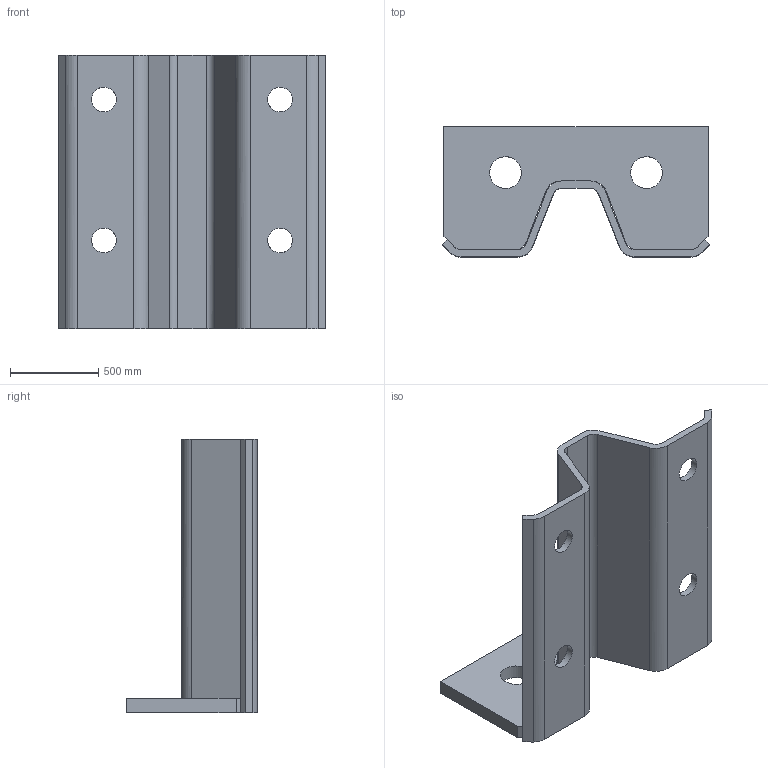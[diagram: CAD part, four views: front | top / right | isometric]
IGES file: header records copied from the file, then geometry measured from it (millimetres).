
Global section: file name: ZB170W80; native system: Autodesk RealDWG; preprocessor: Autodesk Translation Framework DWG producer (atf_dwg_producer); organization: unknown; date: 20241104.112436; units: centimetre
Bounding box: 1517.2 x 740 x 1550 mm (x, y, z)
Volume: 188016740.6 mm3; surface area: 8596201.1 mm2
Topology: 2 solids, 2 shells, 54 faces, 158 edges, 108 vertices
Faces by surface type: bspline 54
